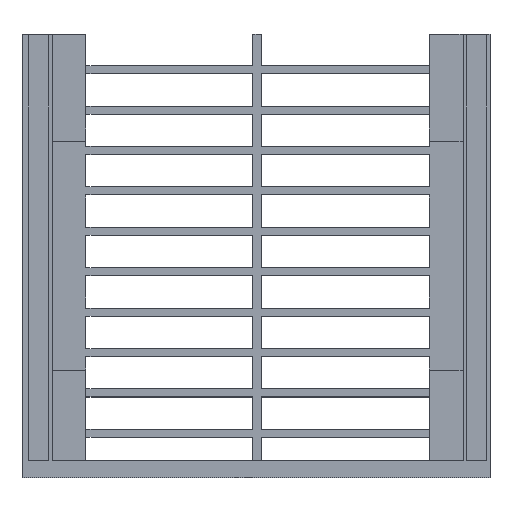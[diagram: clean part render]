
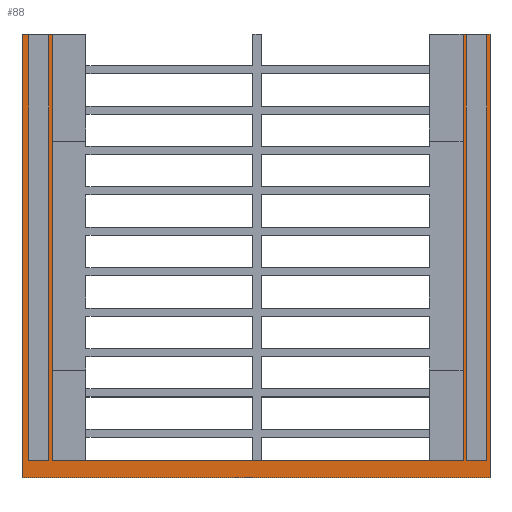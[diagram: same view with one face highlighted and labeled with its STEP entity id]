
A CAD part, top view. The second image highlights one B-rep face of the part: STEP entity #88.
In plain terms, the highlighted planar face has unit normal (0, 0, 1).
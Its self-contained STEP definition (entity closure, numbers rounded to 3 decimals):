
#24 = VERTEX_POINT('',#25);
#25 = CARTESIAN_POINT('',(65.071,193.65,36.));
#40 = VERTEX_POINT('',#41);
#41 = CARTESIAN_POINT('',(65.071,67.15,36.));
#47 = EDGE_CURVE('',#40,#24,#48,.T.);
#48 = LINE('',#49,#50);
#49 = CARTESIAN_POINT('',(65.071,151.566,36.));
#50 = VECTOR('',#51,1.);
#51 = DIRECTION('',(0.,1.,0.));
#61 = EDGE_CURVE('',#62,#24,#64,.T.);
#62 = VERTEX_POINT('',#63);
#63 = CARTESIAN_POINT('',(61.929,193.65,36.));
#64 = LINE('',#65,#66);
#65 = CARTESIAN_POINT('',(95.83,193.65,36.));
#66 = VECTOR('',#67,1.);
#67 = DIRECTION('',(1.,0.,0.));
#88 = ADVANCED_FACE('',(#89,#155,#189),#207,.T.);
#89 = FACE_BOUND('',#90,.F.);
#90 = EDGE_LOOP('',(#91,#101,#109,#117,#125,#133,#141,#149));
#91 = ORIENTED_EDGE('',*,*,#92,.F.);
#92 = EDGE_CURVE('',#93,#95,#97,.T.);
#93 = VERTEX_POINT('',#94);
#94 = CARTESIAN_POINT('',(189.5,193.85,36.));
#95 = VERTEX_POINT('',#96);
#96 = CARTESIAN_POINT('',(189.5,67.15,36.));
#97 = LINE('',#98,#99);
#98 = CARTESIAN_POINT('',(189.5,194.15,36.));
#99 = VECTOR('',#100,1.);
#100 = DIRECTION('',(0.,-1.,0.));
#101 = ORIENTED_EDGE('',*,*,#102,.T.);
#102 = EDGE_CURVE('',#93,#103,#105,.T.);
#103 = VERTEX_POINT('',#104);
#104 = CARTESIAN_POINT('',(197.5,193.85,36.));
#105 = LINE('',#106,#107);
#106 = CARTESIAN_POINT('',(128.08,193.85,36.));
#107 = VECTOR('',#108,1.);
#108 = DIRECTION('',(1.,0.,0.));
#109 = ORIENTED_EDGE('',*,*,#110,.T.);
#110 = EDGE_CURVE('',#103,#111,#113,.T.);
#111 = VERTEX_POINT('',#112);
#112 = CARTESIAN_POINT('',(197.5,62.15,36.));
#113 = LINE('',#114,#115);
#114 = CARTESIAN_POINT('',(197.5,194.15,36.));
#115 = VECTOR('',#116,1.);
#116 = DIRECTION('',(-0.,-1.,0.));
#117 = ORIENTED_EDGE('',*,*,#118,.T.);
#118 = EDGE_CURVE('',#111,#119,#121,.T.);
#119 = VERTEX_POINT('',#120);
#120 = CARTESIAN_POINT('',(58.5,62.15,36.));
#121 = LINE('',#122,#123);
#122 = CARTESIAN_POINT('',(63.5,62.15,36.));
#123 = VECTOR('',#124,1.);
#124 = DIRECTION('',(-1.,0.,-0.));
#125 = ORIENTED_EDGE('',*,*,#126,.T.);
#126 = EDGE_CURVE('',#119,#127,#129,.T.);
#127 = VERTEX_POINT('',#128);
#128 = CARTESIAN_POINT('',(58.5,193.85,36.));
#129 = LINE('',#130,#131);
#130 = CARTESIAN_POINT('',(58.5,62.15,36.));
#131 = VECTOR('',#132,1.);
#132 = DIRECTION('',(0.,1.,0.));
#133 = ORIENTED_EDGE('',*,*,#134,.T.);
#134 = EDGE_CURVE('',#127,#135,#137,.T.);
#135 = VERTEX_POINT('',#136);
#136 = CARTESIAN_POINT('',(67.5,193.85,36.));
#137 = LINE('',#138,#139);
#138 = CARTESIAN_POINT('',(128.08,193.85,36.));
#139 = VECTOR('',#140,1.);
#140 = DIRECTION('',(1.,0.,0.));
#141 = ORIENTED_EDGE('',*,*,#142,.T.);
#142 = EDGE_CURVE('',#135,#143,#145,.T.);
#143 = VERTEX_POINT('',#144);
#144 = CARTESIAN_POINT('',(67.5,67.15,36.));
#145 = LINE('',#146,#147);
#146 = CARTESIAN_POINT('',(67.5,194.15,36.));
#147 = VECTOR('',#148,1.);
#148 = DIRECTION('',(0.,-1.,0.));
#149 = ORIENTED_EDGE('',*,*,#150,.T.);
#150 = EDGE_CURVE('',#143,#95,#151,.T.);
#151 = LINE('',#152,#153);
#152 = CARTESIAN_POINT('',(58.5,67.15,36.));
#153 = VECTOR('',#154,1.);
#154 = DIRECTION('',(1.,0.,0.));
#155 = FACE_BOUND('',#156,.F.);
#156 = EDGE_LOOP('',(#157,#167,#175,#183));
#157 = ORIENTED_EDGE('',*,*,#158,.F.);
#158 = EDGE_CURVE('',#159,#161,#163,.T.);
#159 = VERTEX_POINT('',#160);
#160 = CARTESIAN_POINT('',(191.929,193.65,36.));
#161 = VERTEX_POINT('',#162);
#162 = CARTESIAN_POINT('',(195.071,193.65,36.));
#163 = LINE('',#164,#165);
#164 = CARTESIAN_POINT('',(160.83,193.65,36.));
#165 = VECTOR('',#166,1.);
#166 = DIRECTION('',(1.,0.,0.));
#167 = ORIENTED_EDGE('',*,*,#168,.T.);
#168 = EDGE_CURVE('',#159,#169,#171,.T.);
#169 = VERTEX_POINT('',#170);
#170 = CARTESIAN_POINT('',(191.929,67.15,36.));
#171 = LINE('',#172,#173);
#172 = CARTESIAN_POINT('',(191.929,151.566,36.));
#173 = VECTOR('',#174,1.);
#174 = DIRECTION('',(0.,-1.,0.));
#175 = ORIENTED_EDGE('',*,*,#176,.T.);
#176 = EDGE_CURVE('',#169,#177,#179,.T.);
#177 = VERTEX_POINT('',#178);
#178 = CARTESIAN_POINT('',(195.071,67.15,36.));
#179 = LINE('',#180,#181);
#180 = CARTESIAN_POINT('',(160.83,67.15,36.));
#181 = VECTOR('',#182,1.);
#182 = DIRECTION('',(1.,0.,0.));
#183 = ORIENTED_EDGE('',*,*,#184,.T.);
#184 = EDGE_CURVE('',#177,#161,#185,.T.);
#185 = LINE('',#186,#187);
#186 = CARTESIAN_POINT('',(195.071,151.566,36.));
#187 = VECTOR('',#188,1.);
#188 = DIRECTION('',(0.,1.,0.));
#189 = FACE_BOUND('',#190,.F.);
#190 = EDGE_LOOP('',(#191,#192,#200,#206));
#191 = ORIENTED_EDGE('',*,*,#61,.F.);
#192 = ORIENTED_EDGE('',*,*,#193,.T.);
#193 = EDGE_CURVE('',#62,#194,#196,.T.);
#194 = VERTEX_POINT('',#195);
#195 = CARTESIAN_POINT('',(61.929,67.15,36.));
#196 = LINE('',#197,#198);
#197 = CARTESIAN_POINT('',(61.929,151.566,36.));
#198 = VECTOR('',#199,1.);
#199 = DIRECTION('',(0.,-1.,0.));
#200 = ORIENTED_EDGE('',*,*,#201,.T.);
#201 = EDGE_CURVE('',#194,#40,#202,.T.);
#202 = LINE('',#203,#204);
#203 = CARTESIAN_POINT('',(95.83,67.15,36.));
#204 = VECTOR('',#205,1.);
#205 = DIRECTION('',(1.,0.,0.));
#206 = ORIENTED_EDGE('',*,*,#47,.T.);
#207 = PLANE('',#208);
#208 = AXIS2_PLACEMENT_3D('',#209,#210,#211);
#209 = CARTESIAN_POINT('',(128.16,109.483,36.));
#210 = DIRECTION('',(0.,0.,1.));
#211 = DIRECTION('',(1.,0.,0.));
